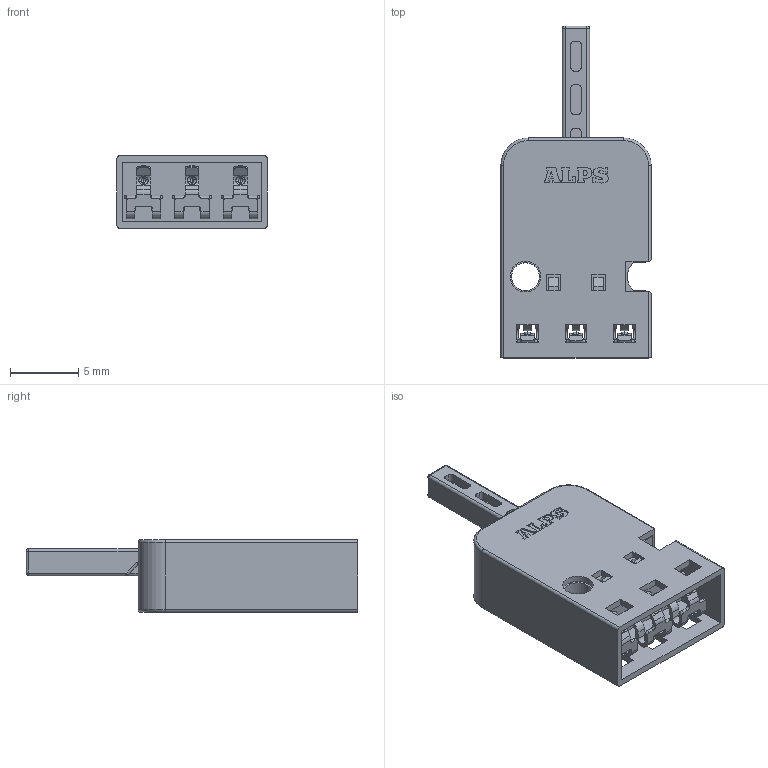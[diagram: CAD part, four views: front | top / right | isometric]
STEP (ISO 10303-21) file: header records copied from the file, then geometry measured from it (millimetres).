
FILE_DESCRIPTION (( 'STEP AP214' ), '1' );
FILE_NAME ('SSCL.STEP', '2011-12-14T02:06:30', ( ' ' ), ( '' ), 'SwSTEP 2.0', 'SolidWorks 2010', '' );
FILE_SCHEMA (( 'AUTOMOTIVE_DESIGN' ));
Length unit declared in the file: millimetre
Products named in the file (1): SSCL
Bounding box: 11 x 24.3 x 5.3 mm (x, y, z)
Volume: 689.8 mm3; surface area: 1252 mm2
Topology: 1 solids, 1 shells, 548 faces, 1581 edges, 1040 vertices
Faces by surface type: plane 323, cylinder 191, sphere 18, bspline 12, torus 4
Entity records: 22208 total; most frequent: CARTESIAN_POINT 4012, ORIENTED_EDGE 3154, DIRECTION 2987, EDGE_CURVE 1577, VECTOR 1125, LINE 1125, VERTEX_POINT 1040, AXIS2_PLACEMENT_3D 931
